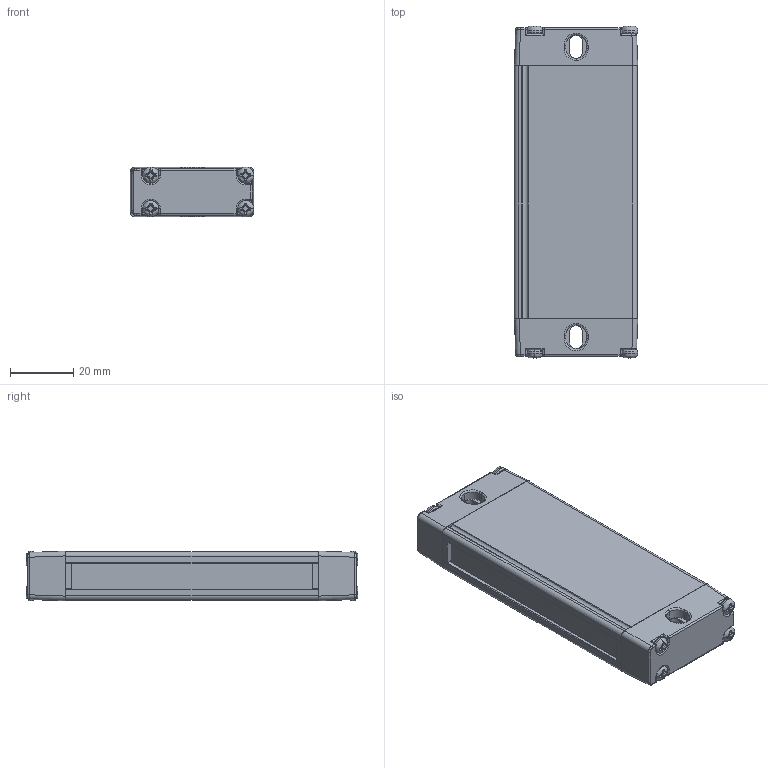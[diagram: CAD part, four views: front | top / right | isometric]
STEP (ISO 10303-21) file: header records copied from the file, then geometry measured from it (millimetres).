
FILE_DESCRIPTION((''),'2;1');
FILE_NAME('EB15--3610_ASM','2021-07-22T09:55:38',('18720616900'),(''),'CREO PARAMETRIC BY PTC INC, 2019010','CREO PARAMETRIC BY PTC INC, 2019010','');
FILE_SCHEMA(('CONFIG_CONTROL_DESIGN'));
Length unit declared in the file: millimetre
Products named in the file (6): EB15-00; EB15-000; EB15-0003; EB15-0004; ST-3-12; EB15--3610_ASM
Assembly tree (12 placements, depth 2):
  EB15--3610_ASM
    EB15-00
    EB15-000
    EB15-0003
    EB15-0004
    ST-3-12  x8
Bounding box: 39.15 x 105 x 15.8 mm (x, y, z)
Volume: 62382.5 mm3; surface area: 20422 mm2
Topology: 12 solids, 12 shells, 827 faces, 2188 edges, 1368 vertices
Faces by surface type: plane 242, bspline 188, cone 176, cylinder 165, torus 40, sphere 16
Entity records: 16044 total; most frequent: CARTESIAN_POINT 7660, ORIENTED_EDGE 1804, DIRECTION 1603, EDGE_CURVE 902, AXIS2_PLACEMENT_3D 577, VERTEX_POINT 563, VECTOR 449, LINE 449
